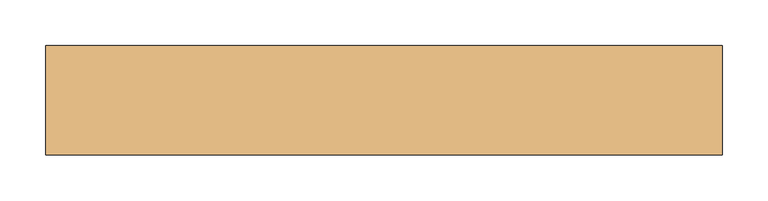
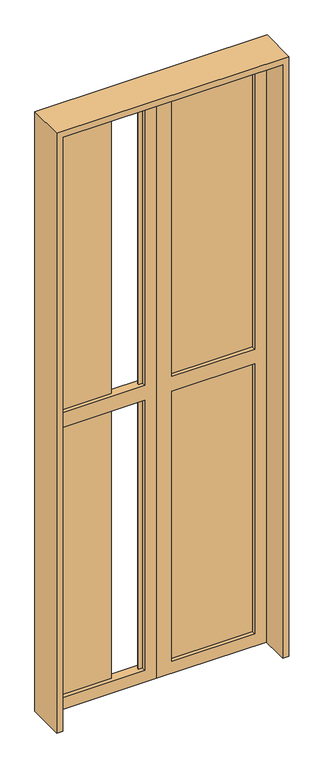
"""IFC4 building model written with IfcOpenShell, lengths in millimetres: door geometry, 木製_折戸2枚_フラッシュ(UB) : UB-1 w600h2000."""

import ifcopenshell
import ifcopenshell.guid

model = None  # the IFC model being written
_history = None  # IfcOwnerHistory: only IFC2X3 demands one
_inside = {}  # id of a spatial element -> (the spatial element, [elements in it])
_under = {}  # id of a project, library or spatial element -> (it, [spatial elements below it])
_declared = {}  # id of a project -> (the project, [libraries it declares])
_typed = {}  # id of a type object -> (the type object, [elements of that type])
_made_of = {}  # id of a material, layer set ... -> (it, [elements and type objects made of it])


def new_model(schema):
    """Start an empty IFC model of exactly this schema.

    Asked for "IFC4X3", IfcOpenShell would pick the latest addendum, in which some entities
    have other attributes; the version numbers below select the first issue.
    IFC2X3 requires an IfcOwnerHistory on every rooted entity: one is made here for all.
    """
    global model, _history
    if schema == "IFC4X3":
        model = ifcopenshell.file(schema_version=(4, 3, 0, 0))
    else:
        model = ifcopenshell.file(schema=schema)
    _inside.clear()
    _under.clear()
    _declared.clear()
    _typed.clear()
    _made_of.clear()
    _history = None
    if model.schema == "IFC2X3":
        org = make("IfcOrganization", Name="unknown")
        user = make(
            "IfcPersonAndOrganization",
            ThePerson=make("IfcPerson", FamilyName="unknown"),
            TheOrganization=org,
        )
        app = make(
            "IfcApplication",
            ApplicationDeveloper=org,
            Version="unknown",
            ApplicationFullName="unknown",
            ApplicationIdentifier="unknown",
        )
        _history = make(
            "IfcOwnerHistory",
            OwningUser=user,
            OwningApplication=app,
            ChangeAction="ADDED",
            CreationDate=0,
        )
    return model


def make(cls, **values):
    """One entity of the class cls with the attributes given. An attribute that is None is left unset."""
    return model.create_entity(
        cls, **{name: value for name, value in values.items() if value is not None}
    )


def rooted(cls, **values):
    """An entity with a GlobalId (a new one), such as an element, a storey or a relation."""
    return make(cls, GlobalId=ifcopenshell.guid.new(), OwnerHistory=_history, **values)


def si_unit(unit_type, name, prefix=None):
    """IfcSIUnit, for example si_unit("LENGTHUNIT", "METRE", prefix="MILLI")."""
    return make("IfcSIUnit", UnitType=unit_type, Prefix=prefix, Name=name)


def assignment(units):
    """IfcUnitAssignment: the units of a project."""
    return None if units is None else make("IfcUnitAssignment", Units=units)


def point(xyz):
    """IfcCartesianPoint."""
    return None if xyz is None else make("IfcCartesianPoint", Coordinates=xyz)


def direction(xyz):
    """IfcDirection."""
    return None if xyz is None else make("IfcDirection", DirectionRatios=xyz)


def frame(location, z_axis=None, x_axis=None):
    """IfcAxis2Placement3D, a coordinate frame: its origin and axes. An axis left out is left unset."""
    return make(
        "IfcAxis2Placement3D",
        Location=point(location),
        Axis=direction(z_axis),
        RefDirection=direction(x_axis),
    )


def origin():
    """The frame at (0, 0, 0) with its axes left unset."""
    return frame((0.0, 0.0, 0.0))


def place(relative_to, where):
    """IfcLocalPlacement: puts the frame where relative to a parent placement (None: the world)."""
    return make(
        "IfcLocalPlacement", PlacementRelTo=relative_to, RelativePlacement=where
    )


def context(
    kind, dimensions, precision=None, world=None, true_north=None, identifier=None
):
    """IfcGeometricRepresentationContext, for example the 3D "Model" context."""
    return make(
        "IfcGeometricRepresentationContext",
        ContextIdentifier=identifier,
        ContextType=kind,
        CoordinateSpaceDimension=dimensions,
        Precision=precision,
        WorldCoordinateSystem=world,
        TrueNorth=true_north,
    )


def project(units=None, contexts=None):
    """IfcProject with its units and contexts."""
    return rooted(
        "IfcProject",
        Name="project",
        RepresentationContexts=contexts,
        UnitsInContext=assignment(units),
    )


def spatial(cls, under=None, at=None, **own):
    """A site, building, storey or space (cls), placed at a placement, below another one or the project."""
    s = rooted(cls, ObjectPlacement=at, **own)
    if under is not None:
        _under.setdefault(under.id(), (under, []))[1].append(s)
    return s


def polyline(points):
    """IfcPolyline through the points."""
    return make("IfcPolyline", Points=[point(p) for p in points])


def outline(outer, holes=None, kind="AREA"):
    """IfcArbitraryClosedProfileDef: a profile drawn as a closed curve; with holes, ...WithVoids."""
    if holes is None:
        return make("IfcArbitraryClosedProfileDef", ProfileType=kind, OuterCurve=outer)
    return make(
        "IfcArbitraryProfileDefWithVoids",
        ProfileType=kind,
        OuterCurve=outer,
        InnerCurves=holes,
    )


def extrude(swept, where, along, depth):
    """IfcExtrudedAreaSolid: the profile swept, set in the frame where, extruded along a direction by depth."""
    return make(
        "IfcExtrudedAreaSolid",
        SweptArea=swept,
        Position=where,
        ExtrudedDirection=direction(along),
        Depth=depth,
    )


def shape(context_of_items, identifier, shape_type, items):
    """IfcShapeRepresentation: the items that make up one representation, for example the "Body"."""
    return make(
        "IfcShapeRepresentation",
        ContextOfItems=context_of_items,
        RepresentationIdentifier=identifier,
        RepresentationType=shape_type,
        Items=items,
    )


def source(mapping_origin, context_of_items, identifier, shape_type, items):
    """IfcRepresentationMap: a shape defined once, which mapped items show again and again."""
    return make(
        "IfcRepresentationMap",
        MappingOrigin=mapping_origin,
        MappedRepresentation=shape(context_of_items, identifier, shape_type, items),
    )


def transform(
    local_origin,
    x_axis=None,
    y_axis=None,
    z_axis=None,
    scale=None,
    scale2=None,
    scale3=None,
    uniform=True,
):
    """IfcCartesianTransformationOperator3D, or its non-uniform kind. x_axis, y_axis, z_axis: its Axis1, 2, 3."""
    if uniform:
        return make(
            "IfcCartesianTransformationOperator3D",
            Axis1=direction(x_axis),
            Axis2=direction(y_axis),
            LocalOrigin=point(local_origin),
            Scale=scale,
            Axis3=direction(z_axis),
        )
    return make(
        "IfcCartesianTransformationOperator3DnonUniform",
        Axis1=direction(x_axis),
        Axis2=direction(y_axis),
        LocalOrigin=point(local_origin),
        Scale=scale,
        Axis3=direction(z_axis),
        Scale2=scale2,
        Scale3=scale3,
    )


def mapped(mapping_source, mapping_target):
    """IfcMappedItem: shows the shape of a source again, moved by a transform."""
    return make(
        "IfcMappedItem", MappingSource=mapping_source, MappingTarget=mapping_target
    )


def made_of(thing, what):
    """Note that an element or type object is made of a material, layer set ...; save() writes the relation."""
    if what is not None:
        _made_of.setdefault(what.id(), (what, []))[1].append(thing)
    return thing


def element(
    cls,
    number,
    at=None,
    inside=None,
    cuts=None,
    type_object=None,
    material=None,
    context=None,
    identifier="Body",
    shape_type=None,
    held_by="IfcProductDefinitionShape",
    body=None,
    shapes=None,
    **own,
):
    """One element of the class cls, such as IfcWall. Its Tag is "e" and its number.

    at: its placement. inside: the storey or other place that contains it. cuts: it is an
    opening in that element (IfcRelVoidsElement). A single representation is given by context,
    identifier, shape_type and body (its items); several are given by shapes. held_by: the class
    of the entity that holds the representations. save() writes the other relations.
    """
    e = rooted(cls, Tag="e%d" % number, ObjectPlacement=at, **own)
    if body is not None:
        shapes = [shape(context, identifier, shape_type, body)]
    if shapes is not None:
        e.Representation = make(held_by, Representations=shapes)
    if inside is not None:
        _inside.setdefault(inside.id(), (inside, []))[1].append(e)
    if cuts is not None:
        rooted(
            "IfcRelVoidsElement", RelatingBuildingElement=cuts, RelatedOpeningElement=e
        )
    if type_object is not None:
        _typed.setdefault(type_object.id(), (type_object, []))[1].append(e)
    return made_of(e, material)


def aggregate(whole, parts):
    """IfcRelAggregates: a whole, such as a stair, and the parts it consists of."""
    return rooted("IfcRelAggregates", RelatingObject=whole, RelatedObjects=parts)


def save(model, path):
    """Write the relations noted so far, then the file.

    IfcRelAggregates (storeys below a building ...), IfcRelContainedInSpatialStructure (elements
    in a storey), IfcRelDefinesByType, IfcRelAssociatesMaterial and IfcRelDeclares: one each for
    every whole, place, type object, material and project.
    """
    for whole, parts in _under.values():
        aggregate(whole, parts)
    for where, things in _inside.values():
        rooted(
            "IfcRelContainedInSpatialStructure",
            RelatedElements=things,
            RelatingStructure=where,
        )
    for kind, things in _typed.values():
        rooted("IfcRelDefinesByType", RelatedObjects=things, RelatingType=kind)
    for what, things in _made_of.values():
        rooted("IfcRelAssociatesMaterial", RelatedObjects=things, RelatingMaterial=what)
    for by, libraries in _declared.values():
        rooted("IfcRelDeclares", RelatingContext=by, RelatedDefinitions=libraries)
    model.write(path)


def door_aabc7979(model_context):
    return source(origin(), model_context, "Body", "SweptSolid", [
        extrude(outline(polyline([(2000.0, 0.0), (2000.0, -350.0), (0.0, -350.0), (0.0, 0.0), (2000.0, 0.0)]), holes=[polyline([(1943.7512282, -300.6069154), (1943.7512282, -37.4435153), (1000.0, -37.4435153), (1000.0, -300.6069154), (1943.7512282, -300.6069154)]), polyline([(950.0, -300.6069154), (950.0, -37.4435153), (40.5708709, -37.4435153), (40.5708709, -300.6069154), (950.0, -300.6069154)])]), frame((0.0, 30.0, 0.0), z_axis=(0.0, 1.0, 0.0), x_axis=(0.0, 0.0, 1.0)), (0.0, 0.0, 1.0), 30.0),
        extrude(outline(polyline([(2020.0, -370.0), (0.0, -370.0), (0.0, -350.0), (2000.0, -350.0), (2000.0, 350.0), (0.0, 350.0), (0.0, 370.0), (2020.0, 370.0), (2020.0, -370.0)])), frame((0.0, -60.0, 0.0), z_axis=(0.0, 1.0, 0.0), x_axis=(0.0, 0.0, 1.0)), (0.0, 0.0, 1.0), 120.0),
        extrude(outline(polyline([(2000.0, 350.0), (2000.0, 0.0), (0.0, 0.0), (0.0, 350.0), (2000.0, 350.0)]), holes=[polyline([(1943.7512282, 49.3930846), (1943.7512282, 312.5564847), (1000.0, 312.5564847), (1000.0, 49.3930846), (1943.7512282, 49.3930846)]), polyline([(950.0, 49.3930846), (950.0, 312.5564847), (40.5708709, 312.5564847), (40.5708709, 49.3930846), (950.0, 49.3930846)])]), frame((0.0, 30.0, 0.0), z_axis=(0.0, 1.0, 0.0), x_axis=(0.0, 0.0, 1.0)), (0.0, 0.0, 1.0), 30.0),
        extrude(outline(polyline([(-50.6069154, 45.0), (312.5564847, 45.0), (312.5564847, 42.0), (-50.6069154, 42.0), (-50.6069154, 45.0)])), frame((0.0, 0.0, 1000.0), z_axis=(0.0, 0.0, 1.0), x_axis=(1.0, 0.0, 0.0)), (0.0, 0.0, 1.0), 943.7512282),
        extrude(outline(polyline([(-50.6069154, 45.0), (312.5564847, 45.0), (312.5564847, 42.0), (-50.6069154, 42.0), (-50.6069154, 45.0)])), frame((0.0, 0.0, 40.5708709), z_axis=(0.0, 0.0, 1.0), x_axis=(1.0, 0.0, 0.0)), (0.0, 0.0, 1.0), 909.4291291),
        extrude(outline(polyline([(-300.6069154, 45.0), (-137.4435153, 45.0), (-137.4435153, 42.0), (-300.6069154, 42.0), (-300.6069154, 45.0)])), frame((0.0, 0.0, 1000.0), z_axis=(0.0, 0.0, 1.0), x_axis=(1.0, 0.0, 0.0)), (0.0, 0.0, 1.0), 943.7512282),
        extrude(outline(polyline([(-300.6069154, 45.0), (-137.4435153, 45.0), (-137.4435153, 42.0), (-300.6069154, 42.0), (-300.6069154, 45.0)])), frame((0.0, 0.0, 40.5708709), z_axis=(0.0, 0.0, 1.0), x_axis=(1.0, 0.0, 0.0)), (0.0, 0.0, 1.0), 909.4291291),
    ])


if __name__ == "__main__":
    model = new_model("IFC4")
    model_context = context("Model", 3, world=origin())
    ifc_project = project(units=[si_unit("LENGTHUNIT", "METRE", prefix="MILLI")], contexts=[model_context])
    site = spatial("IfcSite", under=ifc_project)
    building = spatial("IfcBuilding", under=site)
    placement = place(None, origin())
    door_shape = door_aabc7979(model_context)
    element("IfcDoor", 1, ObjectType="木製_折戸2枚_フラッシュ(UB) : UB-1 w600h2000", at=placement, inside=building, context=model_context, shape_type="MappedRepresentation", body=[
        mapped(door_shape, transform((0.0, 0.0, 0.0), x_axis=(1.0, 0.0, 0.0), y_axis=(0.0, 1.0, 0.0), z_axis=(0.0, 0.0, 1.0))),
    ])
    save(model, "model.ifc")
